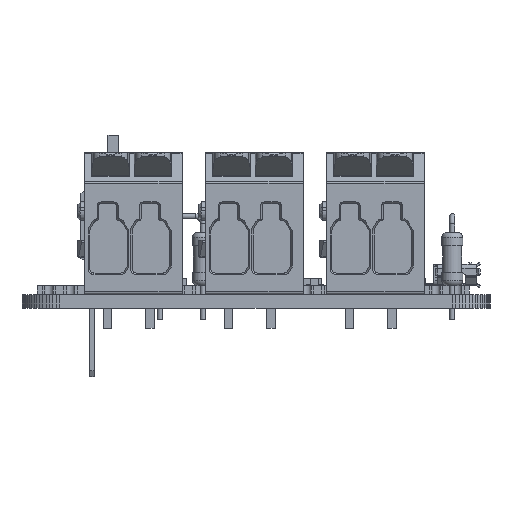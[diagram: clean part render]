
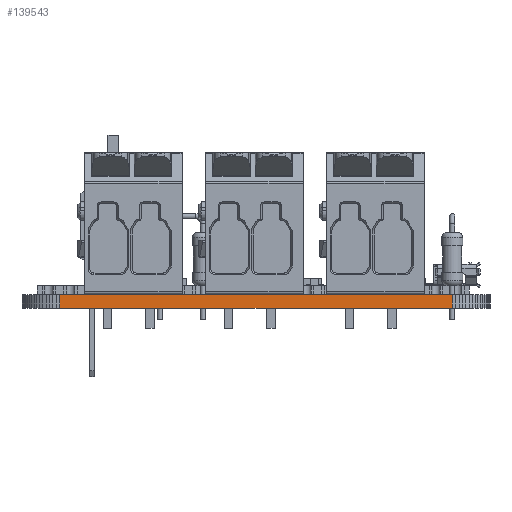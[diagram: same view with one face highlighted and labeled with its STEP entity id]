
A CAD part, front view. The second image highlights one B-rep face of the part: STEP entity #139543.
In plain terms, the highlighted planar face has unit normal (0, -1, 0).
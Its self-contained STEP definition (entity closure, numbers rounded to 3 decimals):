
#131883 = PLANE('',#131884);
#131884 = AXIS2_PLACEMENT_3D('',#131885,#131886,#131887);
#131885 = CARTESIAN_POINT('',(159.068,-91.758,1.6));
#131886 = DIRECTION('',(-0.,-0.,-1.));
#131887 = DIRECTION('',(-1.,0.,0.));
#131937 = PLANE('',#131938);
#131938 = AXIS2_PLACEMENT_3D('',#131939,#131940,#131941);
#131939 = CARTESIAN_POINT('',(159.068,-91.758,0.));
#131940 = DIRECTION('',(-0.,-0.,-1.));
#131941 = DIRECTION('',(-1.,0.,0.));
#132998 = VERTEX_POINT('',#132999);
#132999 = CARTESIAN_POINT('',(182.245,-130.81,0.));
#133013 = PLANE('',#133014);
#133014 = AXIS2_PLACEMENT_3D('',#133015,#133016,#133017);
#133015 = CARTESIAN_POINT('',(182.655,-130.791,0.));
#133016 = DIRECTION('',(0.046,-0.999,0.));
#133017 = DIRECTION('',(-0.999,-0.046,0.));
#133025 = EDGE_CURVE('',#132998,#133026,#133028,.T.);
#133026 = VERTEX_POINT('',#133027);
#133027 = CARTESIAN_POINT('',(135.89,-130.81,0.));
#133028 = SURFACE_CURVE('',#133029,(#133033,#133040),.PCURVE_S1.);
#133029 = LINE('',#133030,#133031);
#133030 = CARTESIAN_POINT('',(182.245,-130.81,0.));
#133031 = VECTOR('',#133032,1.);
#133032 = DIRECTION('',(-1.,0.,0.));
#133033 = PCURVE('',#131937,#133034);
#133034 = DEFINITIONAL_REPRESENTATION('',(#133035),#133039);
#133035 = LINE('',#133036,#133037);
#133036 = CARTESIAN_POINT('',(-23.178,-39.053));
#133037 = VECTOR('',#133038,1.);
#133038 = DIRECTION('',(1.,0.));
#133039 = ( GEOMETRIC_REPRESENTATION_CONTEXT(2) 
PARAMETRIC_REPRESENTATION_CONTEXT() REPRESENTATION_CONTEXT('2D SPACE',''
  ) );
#133040 = PCURVE('',#133041,#133046);
#133041 = PLANE('',#133042);
#133042 = AXIS2_PLACEMENT_3D('',#133043,#133044,#133045);
#133043 = CARTESIAN_POINT('',(182.245,-130.81,0.));
#133044 = DIRECTION('',(0.,-1.,0.));
#133045 = DIRECTION('',(-1.,0.,0.));
#133046 = DEFINITIONAL_REPRESENTATION('',(#133047),#133051);
#133047 = LINE('',#133048,#133049);
#133048 = CARTESIAN_POINT('',(0.,-0.));
#133049 = VECTOR('',#133050,1.);
#133050 = DIRECTION('',(1.,0.));
#133051 = ( GEOMETRIC_REPRESENTATION_CONTEXT(2) 
PARAMETRIC_REPRESENTATION_CONTEXT() REPRESENTATION_CONTEXT('2D SPACE',''
  ) );
#133069 = PLANE('',#133070);
#133070 = AXIS2_PLACEMENT_3D('',#133071,#133072,#133073);
#133071 = CARTESIAN_POINT('',(135.89,-130.81,0.));
#133072 = DIRECTION('',(-0.046,-0.999,0.));
#133073 = DIRECTION('',(-0.999,0.046,0.));
#135910 = VERTEX_POINT('',#135911);
#135911 = CARTESIAN_POINT('',(182.245,-130.81,1.6));
#135932 = EDGE_CURVE('',#135910,#135933,#135935,.T.);
#135933 = VERTEX_POINT('',#135934);
#135934 = CARTESIAN_POINT('',(135.89,-130.81,1.6));
#135935 = SURFACE_CURVE('',#135936,(#135940,#135947),.PCURVE_S1.);
#135936 = LINE('',#135937,#135938);
#135937 = CARTESIAN_POINT('',(182.245,-130.81,1.6));
#135938 = VECTOR('',#135939,1.);
#135939 = DIRECTION('',(-1.,0.,0.));
#135940 = PCURVE('',#131883,#135941);
#135941 = DEFINITIONAL_REPRESENTATION('',(#135942),#135946);
#135942 = LINE('',#135943,#135944);
#135943 = CARTESIAN_POINT('',(-23.178,-39.053));
#135944 = VECTOR('',#135945,1.);
#135945 = DIRECTION('',(1.,0.));
#135946 = ( GEOMETRIC_REPRESENTATION_CONTEXT(2) 
PARAMETRIC_REPRESENTATION_CONTEXT() REPRESENTATION_CONTEXT('2D SPACE',''
  ) );
#135947 = PCURVE('',#133041,#135948);
#135948 = DEFINITIONAL_REPRESENTATION('',(#135949),#135953);
#135949 = LINE('',#135950,#135951);
#135950 = CARTESIAN_POINT('',(0.,-1.6));
#135951 = VECTOR('',#135952,1.);
#135952 = DIRECTION('',(1.,0.));
#135953 = ( GEOMETRIC_REPRESENTATION_CONTEXT(2) 
PARAMETRIC_REPRESENTATION_CONTEXT() REPRESENTATION_CONTEXT('2D SPACE',''
  ) );
#139495 = EDGE_CURVE('',#132998,#135910,#139496,.T.);
#139496 = SURFACE_CURVE('',#139497,(#139501,#139508),.PCURVE_S1.);
#139497 = LINE('',#139498,#139499);
#139498 = CARTESIAN_POINT('',(182.245,-130.81,0.));
#139499 = VECTOR('',#139500,1.);
#139500 = DIRECTION('',(0.,0.,1.));
#139501 = PCURVE('',#133013,#139502);
#139502 = DEFINITIONAL_REPRESENTATION('',(#139503),#139507);
#139503 = LINE('',#139504,#139505);
#139504 = CARTESIAN_POINT('',(0.411,0.));
#139505 = VECTOR('',#139506,1.);
#139506 = DIRECTION('',(0.,-1.));
#139507 = ( GEOMETRIC_REPRESENTATION_CONTEXT(2) 
PARAMETRIC_REPRESENTATION_CONTEXT() REPRESENTATION_CONTEXT('2D SPACE',''
  ) );
#139508 = PCURVE('',#133041,#139509);
#139509 = DEFINITIONAL_REPRESENTATION('',(#139510),#139514);
#139510 = LINE('',#139511,#139512);
#139511 = CARTESIAN_POINT('',(0.,-0.));
#139512 = VECTOR('',#139513,1.);
#139513 = DIRECTION('',(0.,-1.));
#139514 = ( GEOMETRIC_REPRESENTATION_CONTEXT(2) 
PARAMETRIC_REPRESENTATION_CONTEXT() REPRESENTATION_CONTEXT('2D SPACE',''
  ) );
#139543 = ADVANCED_FACE('',(#139544),#133041,.T.);
#139544 = FACE_BOUND('',#139545,.T.);
#139545 = EDGE_LOOP('',(#139546,#139547,#139548,#139569));
#139546 = ORIENTED_EDGE('',*,*,#139495,.T.);
#139547 = ORIENTED_EDGE('',*,*,#135932,.T.);
#139548 = ORIENTED_EDGE('',*,*,#139549,.F.);
#139549 = EDGE_CURVE('',#133026,#135933,#139550,.T.);
#139550 = SURFACE_CURVE('',#139551,(#139555,#139562),.PCURVE_S1.);
#139551 = LINE('',#139552,#139553);
#139552 = CARTESIAN_POINT('',(135.89,-130.81,0.));
#139553 = VECTOR('',#139554,1.);
#139554 = DIRECTION('',(0.,0.,1.));
#139555 = PCURVE('',#133041,#139556);
#139556 = DEFINITIONAL_REPRESENTATION('',(#139557),#139561);
#139557 = LINE('',#139558,#139559);
#139558 = CARTESIAN_POINT('',(46.355,0.));
#139559 = VECTOR('',#139560,1.);
#139560 = DIRECTION('',(0.,-1.));
#139561 = ( GEOMETRIC_REPRESENTATION_CONTEXT(2) 
PARAMETRIC_REPRESENTATION_CONTEXT() REPRESENTATION_CONTEXT('2D SPACE',''
  ) );
#139562 = PCURVE('',#133069,#139563);
#139563 = DEFINITIONAL_REPRESENTATION('',(#139564),#139568);
#139564 = LINE('',#139565,#139566);
#139565 = CARTESIAN_POINT('',(0.,0.));
#139566 = VECTOR('',#139567,1.);
#139567 = DIRECTION('',(0.,-1.));
#139568 = ( GEOMETRIC_REPRESENTATION_CONTEXT(2) 
PARAMETRIC_REPRESENTATION_CONTEXT() REPRESENTATION_CONTEXT('2D SPACE',''
  ) );
#139569 = ORIENTED_EDGE('',*,*,#133025,.F.);
